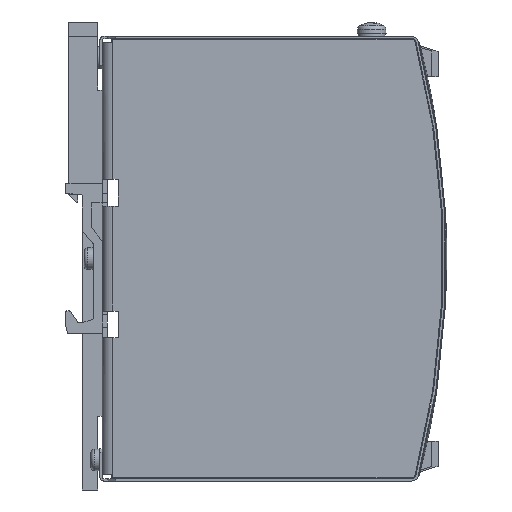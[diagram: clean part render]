
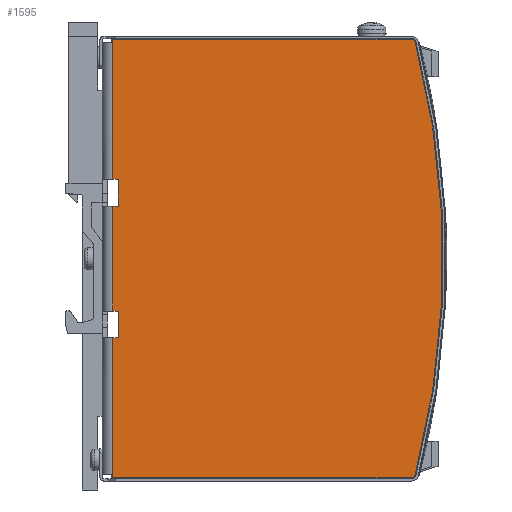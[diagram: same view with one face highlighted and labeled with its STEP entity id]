
A CAD part, front view. The second image highlights one B-rep face of the part: STEP entity #1595.
In plain terms, the highlighted planar face has unit normal (0, -1, 0).
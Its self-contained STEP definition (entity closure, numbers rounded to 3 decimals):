
#152=CARTESIAN_POINT('',(3.,-24.5,14.6));
#153=VERTEX_POINT('',#152);
#161=CARTESIAN_POINT('',(4.5,-24.5,14.6));
#162=VERTEX_POINT('',#161);
#163=CARTESIAN_POINT('',(4.5,-24.5,14.6));
#164=DIRECTION('',(-1.0,0.0,0.0));
#165=VECTOR('',#164,1.5);
#166=LINE('',#163,#165);
#167=EDGE_CURVE('',#162,#153,#166,.T.);
#210=CARTESIAN_POINT('',(4.5,-24.5,22.1));
#211=VERTEX_POINT('',#210);
#212=CARTESIAN_POINT('',(4.5,-24.5,22.1));
#213=DIRECTION('',(0.0,0.0,-1.0));
#214=VECTOR('',#213,7.5);
#215=LINE('',#212,#214);
#216=EDGE_CURVE('',#211,#162,#215,.T.);
#265=CARTESIAN_POINT('',(3.,-24.5,22.1));
#266=VERTEX_POINT('',#265);
#298=CARTESIAN_POINT('',(3.,-24.5,22.1));
#299=DIRECTION('',(1.0,0.0,0.0));
#300=VECTOR('',#299,1.5);
#301=LINE('',#298,#300);
#302=EDGE_CURVE('',#266,#211,#301,.T.);
#1004=CARTESIAN_POINT('',(3.,-24.5,-22.1));
#1005=VERTEX_POINT('',#1004);
#1013=CARTESIAN_POINT('',(4.5,-24.5,-22.1));
#1014=VERTEX_POINT('',#1013);
#1015=CARTESIAN_POINT('',(4.5,-24.5,-22.1));
#1016=DIRECTION('',(-1.0,0.0,0.0));
#1017=VECTOR('',#1016,1.5);
#1018=LINE('',#1015,#1017);
#1019=EDGE_CURVE('',#1014,#1005,#1018,.T.);
#1062=CARTESIAN_POINT('',(4.5,-24.5,-14.6));
#1063=VERTEX_POINT('',#1062);
#1064=CARTESIAN_POINT('',(4.5,-24.5,-14.6));
#1065=DIRECTION('',(0.0,0.0,-1.0));
#1066=VECTOR('',#1065,7.5);
#1067=LINE('',#1064,#1066);
#1068=EDGE_CURVE('',#1063,#1014,#1067,.T.);
#1117=CARTESIAN_POINT('',(3.,-24.5,-14.6));
#1118=VERTEX_POINT('',#1117);
#1150=CARTESIAN_POINT('',(3.,-24.5,-14.6));
#1151=DIRECTION('',(1.0,0.0,0.0));
#1152=VECTOR('',#1151,1.5);
#1153=LINE('',#1150,#1152);
#1154=EDGE_CURVE('',#1118,#1063,#1153,.T.);
#1519=CARTESIAN_POINT('',(95.0,-24.5,-61.15));
#1520=DIRECTION('',(0.0,-1.0,0.0));
#1521=DIRECTION('',(0.0,0.0,-1.0));
#1522=AXIS2_PLACEMENT_3D('',#1519,#1520,#1521);
#1523=PLANE('',#1522);
#1524=ORIENTED_EDGE('',*,*,#302,.T.);
#1525=ORIENTED_EDGE('',*,*,#216,.T.);
#1526=ORIENTED_EDGE('',*,*,#167,.T.);
#1527=CARTESIAN_POINT('',(3.,-24.5,14.6));
#1528=DIRECTION('',(0.0,0.0,-1.0));
#1529=VECTOR('',#1528,29.2);
#1530=LINE('',#1527,#1529);
#1531=EDGE_CURVE('',#153,#1118,#1530,.T.);
#1532=ORIENTED_EDGE('',*,*,#1531,.T.);
#1533=ORIENTED_EDGE('',*,*,#1154,.T.);
#1534=ORIENTED_EDGE('',*,*,#1068,.T.);
#1535=ORIENTED_EDGE('',*,*,#1019,.T.);
#1536=CARTESIAN_POINT('',(3.,-24.5,-61.15));
#1537=VERTEX_POINT('',#1536);
#1538=CARTESIAN_POINT('',(3.,-24.5,-22.1));
#1539=DIRECTION('',(0.0,0.0,-1.0));
#1540=VECTOR('',#1539,39.05);
#1541=LINE('',#1538,#1540);
#1542=EDGE_CURVE('',#1005,#1537,#1541,.T.);
#1543=ORIENTED_EDGE('',*,*,#1542,.T.);
#1544=CARTESIAN_POINT('',(86.693,-24.5,-61.15));
#1545=VERTEX_POINT('',#1544);
#1546=CARTESIAN_POINT('',(86.693,-24.5,-61.15));
#1547=DIRECTION('',(-1.0,0.0,0.0));
#1548=VECTOR('',#1547,83.693);
#1549=LINE('',#1546,#1548);
#1550=EDGE_CURVE('',#1545,#1537,#1549,.T.);
#1551=ORIENTED_EDGE('',*,*,#1550,.F.);
#1552=CARTESIAN_POINT('',(87.177,-24.5,-60.777));
#1553=VERTEX_POINT('',#1552);
#1554=CARTESIAN_POINT('',(86.693,-24.5,-60.65));
#1555=DIRECTION('',(0.0,1.,0.0));
#1556=DIRECTION('',(0.611,0.0,-0.792));
#1557=AXIS2_PLACEMENT_3D('',#1554,#1555,#1556);
#1558=CIRCLE('',#1557,0.5);
#1559=EDGE_CURVE('',#1553,#1545,#1558,.T.);
#1560=ORIENTED_EDGE('',*,*,#1559,.F.);
#1561=CARTESIAN_POINT('',(87.177,-24.5,60.777));
#1562=VERTEX_POINT('',#1561);
#1563=CARTESIAN_POINT('',(-145.,-24.5,0.));
#1564=DIRECTION('',(0.0,-1.0,0.0));
#1565=DIRECTION('',(-0.967,0.0,-0.255));
#1566=AXIS2_PLACEMENT_3D('',#1563,#1564,#1565);
#1567=CIRCLE('',#1566,240.);
#1568=EDGE_CURVE('',#1553,#1562,#1567,.T.);
#1569=ORIENTED_EDGE('',*,*,#1568,.T.);
#1570=CARTESIAN_POINT('',(86.693,-24.5,61.15));
#1571=VERTEX_POINT('',#1570);
#1572=CARTESIAN_POINT('',(86.693,-24.5,60.65));
#1573=DIRECTION('',(0.0,1.0,0.0));
#1574=DIRECTION('',(0.611,0.0,0.792));
#1575=AXIS2_PLACEMENT_3D('',#1572,#1573,#1574);
#1576=CIRCLE('',#1575,0.5);
#1577=EDGE_CURVE('',#1571,#1562,#1576,.T.);
#1578=ORIENTED_EDGE('',*,*,#1577,.F.);
#1579=CARTESIAN_POINT('',(3.,-24.5,61.15));
#1580=VERTEX_POINT('',#1579);
#1581=CARTESIAN_POINT('',(86.693,-24.5,61.15));
#1582=DIRECTION('',(-1.0,0.0,0.0));
#1583=VECTOR('',#1582,83.693);
#1584=LINE('',#1581,#1583);
#1585=EDGE_CURVE('',#1571,#1580,#1584,.T.);
#1586=ORIENTED_EDGE('',*,*,#1585,.T.);
#1587=CARTESIAN_POINT('',(3.,-24.5,61.15));
#1588=DIRECTION('',(0.0,0.0,-1.0));
#1589=VECTOR('',#1588,39.05);
#1590=LINE('',#1587,#1589);
#1591=EDGE_CURVE('',#1580,#266,#1590,.T.);
#1592=ORIENTED_EDGE('',*,*,#1591,.T.);
#1593=EDGE_LOOP('',(#1524,#1525,#1526,#1532,#1533,#1534,#1535,#1543,#1551,#1560,#1569,#1578,#1586,#1592));
#1594=FACE_OUTER_BOUND('',#1593,.T.);
#1595=ADVANCED_FACE('',(#1594),#1523,.T.);
